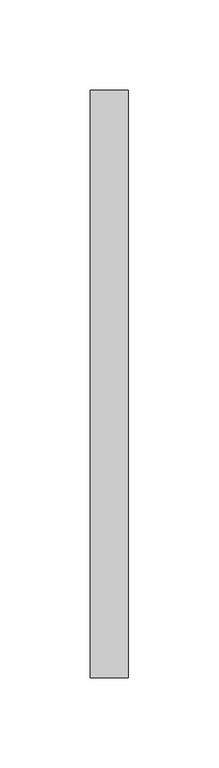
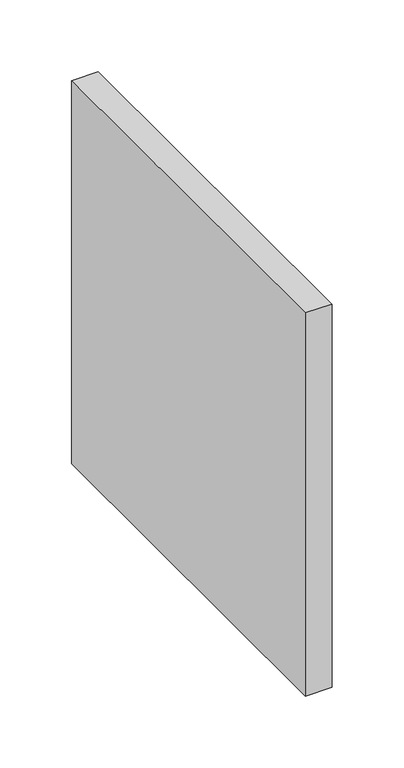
"""IFC4 building model written with IfcOpenShell, lengths in millimetres: duct fitting geometry, MEP_15.03 Injerto Conducte : Mínimo."""

from ifc_helpers import new_model, si_unit, frame, origin, place, context, project, spatial, polyline, outline, extrude, source, transform, mapped, element, save


def duct_fitting_536821f4(model_context):
    return source(origin(), model_context, "Body", "SweptSolid", [
        extrude(outline(polyline([(-6.096, -162.5), (-6.096, 162.5), (15.0, 162.5), (15.0, -162.5), (-6.096, -162.5)])), frame((0.0, 0.0, -162.5), z_axis=(0.0, 0.0, 1.0), x_axis=(1.0, 0.0, 0.0)), (0.0, 0.0, 1.0), 325.0),
    ])


if __name__ == "__main__":
    model = new_model("IFC4")
    model_context = context("Model", 3, world=origin())
    ifc_project = project(units=[si_unit("LENGTHUNIT", "METRE", prefix="MILLI")], contexts=[model_context])
    site = spatial("IfcSite", under=ifc_project)
    building = spatial("IfcBuilding", under=site)
    placement = place(None, origin())
    duct_fitting_shape = duct_fitting_536821f4(model_context)
    element("IfcDuctFitting", 1, ObjectType="MEP_15.03 Injerto Conducte : Mínimo", at=placement, inside=building, context=model_context, shape_type="MappedRepresentation", body=[
        mapped(duct_fitting_shape, transform((0.0, 0.0, 0.0), x_axis=(1.0, 0.0, 0.0), y_axis=(0.0, 1.0, 0.0), z_axis=(0.0, 0.0, 1.0))),
    ])
    save(model, "model.ifc")
